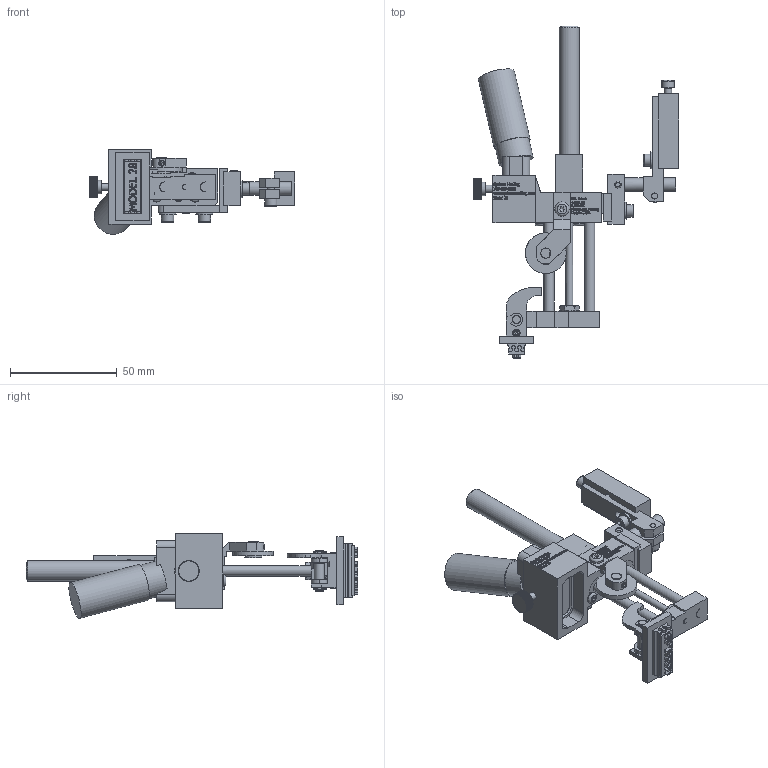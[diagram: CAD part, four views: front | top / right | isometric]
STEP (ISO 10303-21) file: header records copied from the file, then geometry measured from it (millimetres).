
FILE_DESCRIPTION((''),'2;1');
FILE_NAME('C:\Documents and Settings\Ron\My Documents\Inventor\Sprinter Drawing\Machines in Inventor\Model 28\Type\Std\Brkt\Ext\Model 28 StdType Ext w brkt.stp','2009-01-14T10:27:05',('Ron'),(''),'Autodesk Inventor 2008','Autodesk Inventor 2008','');
FILE_SCHEMA(('AUTOMOTIVE_DESIGN { 1 0 10303 214 1 1 1 1 }'));
Length unit declared in the file: inch
Products named in the file (1): Model 28 StdType Ext w brkt
Bounding box: 95.97 x 155.36 x 39.63 mm (x, y, z)
Volume: 67504.2 mm3; surface area: 37121.1 mm2
Topology: 34 solids, 34 shells, 4156 faces, 11309 edges, 7502 vertices
Faces by surface type: plane 2428, bspline 1349, cylinder 315, cone 50, torus 14
Full cylindrical faces by diameter (mm): 2.337 x1, 2.845 x3, 2.946 x2, 3.048 x1, 3.175 x3, 3.454 x1, 3.505 x7, 3.658 x1, 3.876 x1, 3.962 x9, 4.064 x1, 4.166 x2, 4.648 x2, 4.699 x1, 4.75 x1, 4.763 x2, 4.775 x2, 4.788 x1, 5.41 x2, 5.74 x6, 6.096 x1, 6.325 x2, 6.35 x2, 6.655 x1, 7.239 x1, 7.925 x4, 7.938 x1, 8.128 x1, 9.525 x1, 10.922 x1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
Entity records: 143113 total; most frequent: CARTESIAN_POINT 46236, ORIENTED_EDGE 22086, DIRECTION 14821, EDGE_CURVE 11043, VECTOR 7513, LINE 7513, VERTEX_POINT 7405, EDGE_LOOP 4680
